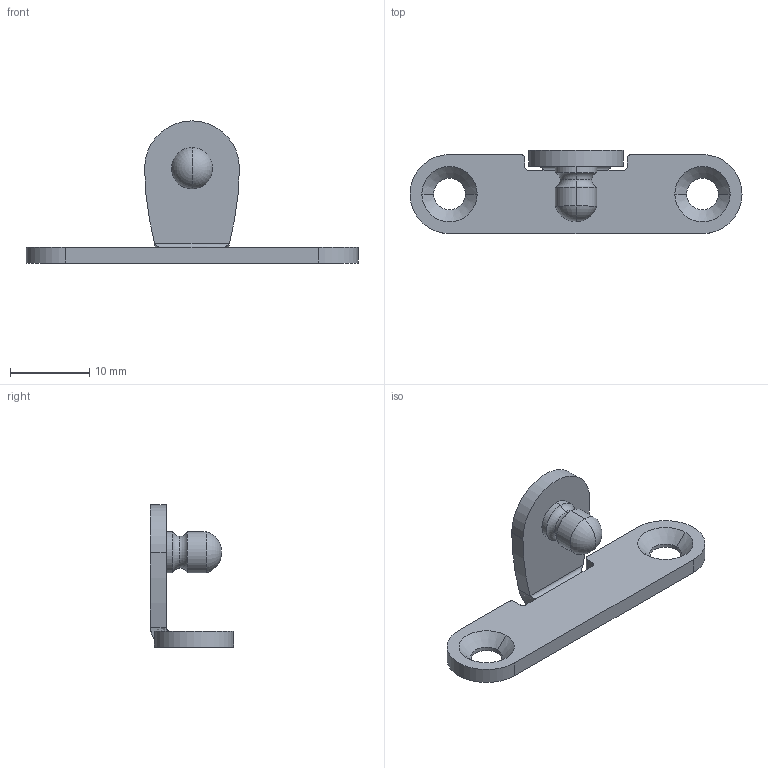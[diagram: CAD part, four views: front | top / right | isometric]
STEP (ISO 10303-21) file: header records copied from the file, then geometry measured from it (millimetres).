
FILE_DESCRIPTION (( 'STEP AP203' ), '1' );
FILE_NAME ('Anschraubwinkel_T-105_Holz_D2659021125~0.step', '2012-05-04T06:20:08', ( 'admin' ), ( 'Hewlett-Packard Company' ), 'SwSTEP 2.0', 'SolidWorks 2011', '' );
FILE_SCHEMA (( 'CONFIG_CONTROL_DESIGN' ));
Length unit declared in the file: millimetre
Products named in the file (1): Anschraubwinkel_T-105_Holz_D2659021125~0
Bounding box: 42 x 10.5 x 18 mm (x, y, z)
Volume: 1145.3 mm3; surface area: 1458.2 mm2
Topology: 1 solids, 1 shells, 45 faces, 109 edges, 65 vertices
Faces by surface type: cylinder 22, plane 11, torus 6, cone 4, bspline 2
Entity records: 1436 total; most frequent: CARTESIAN_POINT 290, DIRECTION 239, ORIENTED_EDGE 214, EDGE_CURVE 107, AXIS2_PLACEMENT_3D 96, VERTEX_POINT 65, CIRCLE 52, EDGE_LOOP 50
